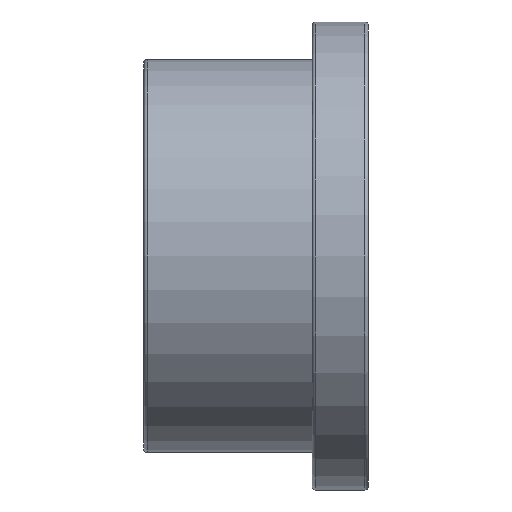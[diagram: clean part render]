
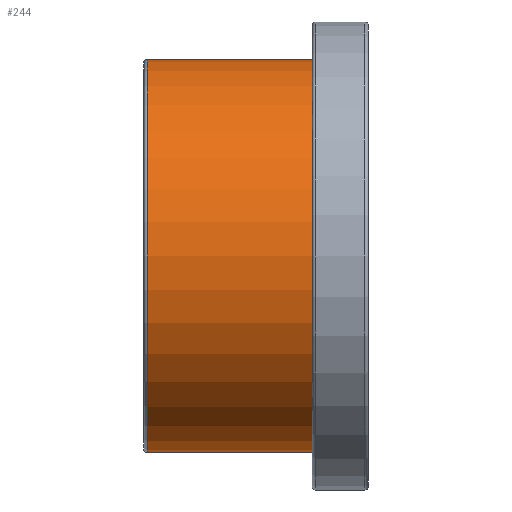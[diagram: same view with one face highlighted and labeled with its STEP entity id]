
A CAD part, front view. The second image highlights one B-rep face of the part: STEP entity #244.
In plain terms, the highlighted cylindrical face has radius 63 mm (diameter 126 mm), a full revolution.
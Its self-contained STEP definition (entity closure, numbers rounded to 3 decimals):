
#20=CYLINDRICAL_SURFACE('',#288,63.);
#46=FACE_BOUND('',#108,.T.);
#67=FACE_OUTER_BOUND('',#107,.T.);
#107=EDGE_LOOP('',(#212));
#108=EDGE_LOOP('',(#213));
#130=CIRCLE('',#285,63.);
#131=CIRCLE('',#287,63.);
#151=VERTEX_POINT('',#433);
#152=VERTEX_POINT('',#436);
#172=EDGE_CURVE('',#151,#151,#130,.T.);
#173=EDGE_CURVE('',#152,#152,#131,.T.);
#212=ORIENTED_EDGE('',*,*,#172,.T.);
#213=ORIENTED_EDGE('',*,*,#173,.F.);
#244=ADVANCED_FACE('',(#67,#46),#20,.T.);
#285=AXIS2_PLACEMENT_3D('',#434,#366,#367);
#287=AXIS2_PLACEMENT_3D('',#437,#370,#371);
#288=AXIS2_PLACEMENT_3D('',#438,#372,#373);
#366=DIRECTION('center_axis',(-1.,0.,0.));
#367=DIRECTION('ref_axis',(0.,0.,1.));
#370=DIRECTION('center_axis',(-1.,0.,0.));
#371=DIRECTION('ref_axis',(0.,1.,0.));
#372=DIRECTION('center_axis',(-1.,0.,0.));
#373=DIRECTION('ref_axis',(0.,-1.,0.));
#433=CARTESIAN_POINT('',(54.,-63.,0.));
#434=CARTESIAN_POINT('Origin',(54.,0.,0.));
#436=CARTESIAN_POINT('',(1.1,-63.,0.));
#437=CARTESIAN_POINT('Origin',(1.1,0.,0.));
#438=CARTESIAN_POINT('Origin',(27.,0.,0.));
